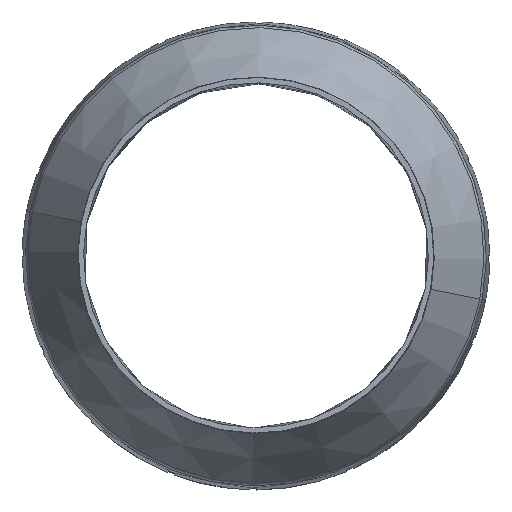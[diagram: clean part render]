
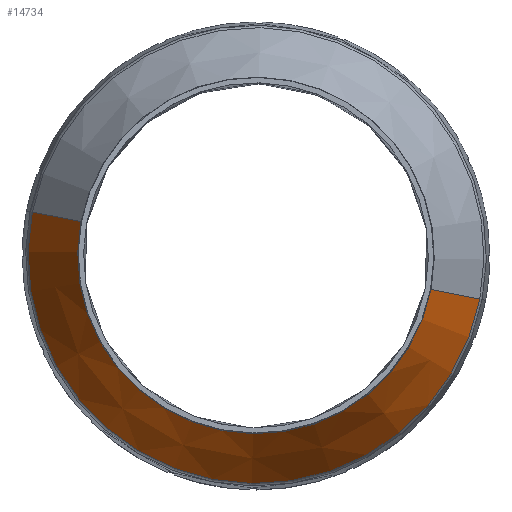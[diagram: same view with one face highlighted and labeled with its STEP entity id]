
A CAD part, top view. The second image highlights one B-rep face of the part: STEP entity #14734.
In plain terms, the highlighted conical face has half-angle 30.028 degrees and reference radius 64.125 mm.
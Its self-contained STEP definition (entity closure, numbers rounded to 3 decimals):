
#132 = ORIENTED_EDGE ( 'NONE', *, *, #16950, .T. ) ;
#138 = ORIENTED_EDGE ( 'NONE', *, *, #17143, .F. ) ;
#151 = ORIENTED_EDGE ( 'NONE', *, *, #16870, .T. ) ;
#176 = ORIENTED_EDGE ( 'NONE', *, *, #17086, .T. ) ;
#677 = EDGE_LOOP ( 'NONE', ( #138, #176, #151, #132 ) ) ;
#1090 = LINE ( 'NONE', #3833, #1163 ) ;
#1163 = VECTOR ( 'NONE', #3722, 1000. ) ;
#3312 = CIRCLE ( 'NONE', #15346, 49.634 ) ;
#3455 = CIRCLE ( 'NONE', #15339, 63.46 ) ;
#3556 = LINE ( 'NONE', #16493, #3615 ) ;
#3615 = VECTOR ( 'NONE', #16779, 1000. ) ;
#3722 = DIRECTION ( 'NONE',  ( 0.491, -0.095, -0.866 ) ) ;
#3739 = DIRECTION ( 'NONE',  ( -0.982, 0.191, 0. ) ) ;
#3833 = CARTESIAN_POINT ( 'NONE',  ( 62.947, -12.236, -32.529 ) ) ;
#3894 = DIRECTION ( 'NONE',  ( 0., 0., -1. ) ) ;
#4028 = CARTESIAN_POINT ( 'NONE',  ( 0., 0., -7.458 ) ) ;
#7150 = FACE_OUTER_BOUND ( 'NONE', #677, .T. ) ;
#7159 = CONICAL_SURFACE ( 'NONE', #17196, 64.125, 0.524 ) ;
#11586 = VERTEX_POINT ( 'NONE', #13637 ) ;
#11825 = VERTEX_POINT ( 'NONE', #14621 ) ;
#11841 = VERTEX_POINT ( 'NONE', #14190 ) ;
#11851 = VERTEX_POINT ( 'NONE', #13903 ) ;
#13637 = CARTESIAN_POINT ( 'NONE',  ( -48.722, 9.471, -7.458 ) ) ;
#13903 = CARTESIAN_POINT ( 'NONE',  ( 62.294, -12.109, -31.378 ) ) ;
#14190 = CARTESIAN_POINT ( 'NONE',  ( 48.722, -9.471, -7.458 ) ) ;
#14351 = DIRECTION ( 'NONE',  ( -0.982, 0.191, 0. ) ) ;
#14581 = CARTESIAN_POINT ( 'NONE',  ( 0., 0., -32.529 ) ) ;
#14621 = CARTESIAN_POINT ( 'NONE',  ( -62.294, 12.109, -31.378 ) ) ;
#14673 = DIRECTION ( 'NONE',  ( 0., 0., -1. ) ) ;
#14734 = ADVANCED_FACE ( 'NONE', ( #7150 ), #7159, .T. ) ;
#15339 = AXIS2_PLACEMENT_3D ( 'NONE', #16549, #16575, #16736 ) ;
#15346 = AXIS2_PLACEMENT_3D ( 'NONE', #4028, #3894, #3739 ) ;
#16493 = CARTESIAN_POINT ( 'NONE',  ( -62.947, 12.236, -32.529 ) ) ;
#16549 = CARTESIAN_POINT ( 'NONE',  ( 0., 0., -31.378 ) ) ;
#16575 = DIRECTION ( 'NONE',  ( 0., 0., 1. ) ) ;
#16736 = DIRECTION ( 'NONE',  ( 0.982, -0.191, 0. ) ) ;
#16779 = DIRECTION ( 'NONE',  ( -0.491, 0.095, -0.866 ) ) ;
#16870 = EDGE_CURVE ( 'NONE', #11586, #11825, #3556, .T. ) ;
#16950 = EDGE_CURVE ( 'NONE', #11825, #11851, #3455, .T. ) ;
#17086 = EDGE_CURVE ( 'NONE', #11841, #11586, #3312, .T. ) ;
#17143 = EDGE_CURVE ( 'NONE', #11841, #11851, #1090, .T. ) ;
#17196 = AXIS2_PLACEMENT_3D ( 'NONE', #14581, #14673, #14351 ) ;
